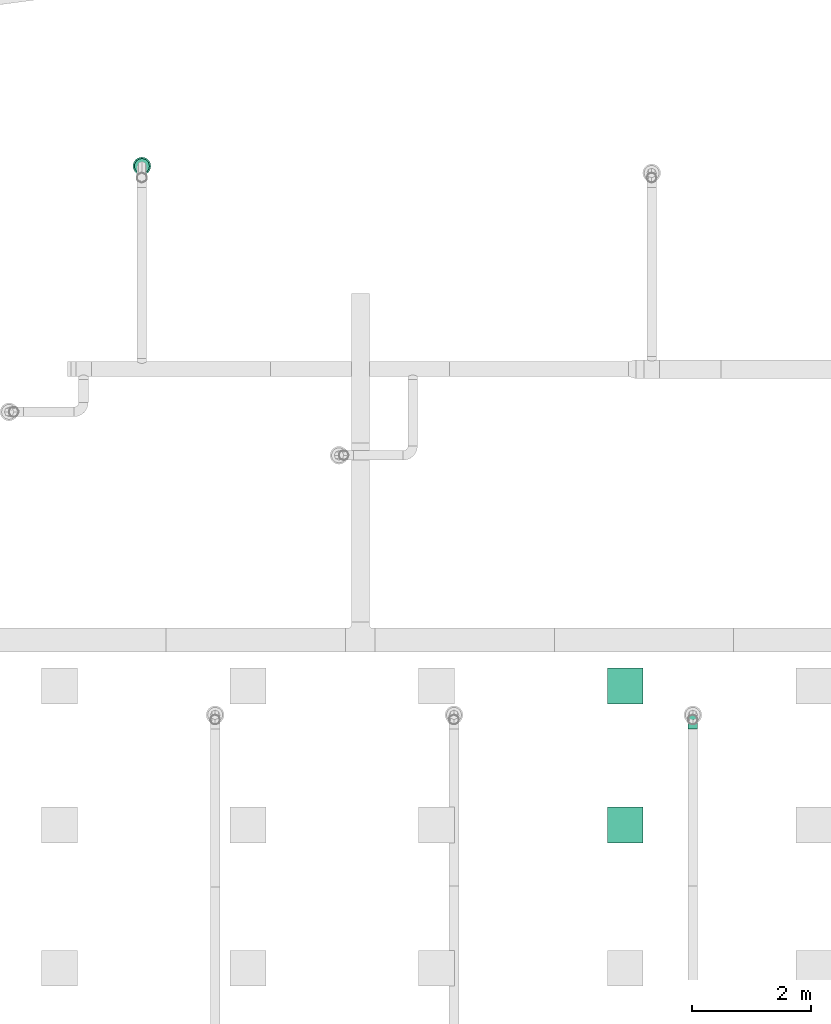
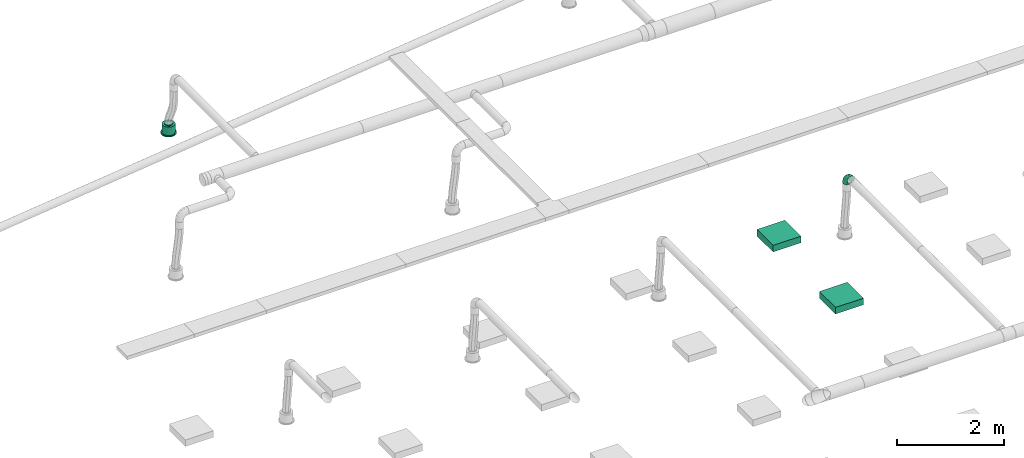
# One storey, part 40 of 374: 2 distribution elements, 1 flow fitting, 1 flow terminal.
"""IFC2X3 building model written with IfcOpenShell, lengths in metres."""

import ifcopenshell
import ifcopenshell.guid

model = None  # the IFC model being written
_history = None  # IfcOwnerHistory: only IFC2X3 demands one
_inside = {}  # id of a spatial element -> (the spatial element, [elements in it])
_under = {}  # id of a project, library or spatial element -> (it, [spatial elements below it])
_declared = {}  # id of a project -> (the project, [libraries it declares])
_typed = {}  # id of a type object -> (the type object, [elements of that type])
_made_of = {}  # id of a material, layer set ... -> (it, [elements and type objects made of it])


def new_model(schema):
    """Start an empty IFC model of exactly this schema.

    Asked for "IFC4X3", IfcOpenShell would pick the latest addendum, in which some entities
    have other attributes; the version numbers below select the first issue.
    IFC2X3 requires an IfcOwnerHistory on every rooted entity: one is made here for all.
    """
    global model, _history
    if schema == "IFC4X3":
        model = ifcopenshell.file(schema_version=(4, 3, 0, 0))
    else:
        model = ifcopenshell.file(schema=schema)
    _inside.clear()
    _under.clear()
    _declared.clear()
    _typed.clear()
    _made_of.clear()
    _history = None
    if model.schema == "IFC2X3":
        org = make("IfcOrganization", Name="unknown")
        user = make(
            "IfcPersonAndOrganization",
            ThePerson=make("IfcPerson", FamilyName="unknown"),
            TheOrganization=org,
        )
        app = make(
            "IfcApplication",
            ApplicationDeveloper=org,
            Version="unknown",
            ApplicationFullName="unknown",
            ApplicationIdentifier="unknown",
        )
        _history = make(
            "IfcOwnerHistory",
            OwningUser=user,
            OwningApplication=app,
            ChangeAction="ADDED",
            CreationDate=0,
        )
    return model


def make(cls, **values):
    """One entity of the class cls with the attributes given. An attribute that is None is left unset."""
    return model.create_entity(
        cls, **{name: value for name, value in values.items() if value is not None}
    )


def rooted(cls, **values):
    """An entity with a GlobalId (a new one), such as an element, a storey or a relation."""
    return make(cls, GlobalId=ifcopenshell.guid.new(), OwnerHistory=_history, **values)


def si_unit(unit_type, name, prefix=None):
    """IfcSIUnit, for example si_unit("LENGTHUNIT", "METRE", prefix="MILLI")."""
    return make("IfcSIUnit", UnitType=unit_type, Prefix=prefix, Name=name)


def assignment(units):
    """IfcUnitAssignment: the units of a project."""
    return None if units is None else make("IfcUnitAssignment", Units=units)


def point(xyz):
    """IfcCartesianPoint."""
    return None if xyz is None else make("IfcCartesianPoint", Coordinates=xyz)


def direction(xyz):
    """IfcDirection."""
    return None if xyz is None else make("IfcDirection", DirectionRatios=xyz)


def frame(location, z_axis=None, x_axis=None):
    """IfcAxis2Placement3D, a coordinate frame: its origin and axes. An axis left out is left unset."""
    return make(
        "IfcAxis2Placement3D",
        Location=point(location),
        Axis=direction(z_axis),
        RefDirection=direction(x_axis),
    )


def frame_2d(location, x_axis=None):
    """IfcAxis2Placement2D, a coordinate frame in the plane: its origin and x axis."""
    return make(
        "IfcAxis2Placement2D", Location=point(location), RefDirection=direction(x_axis)
    )


def origin():
    """The frame at (0, 0, 0) with its axes left unset."""
    return frame((0.0, 0.0, 0.0))


def place(relative_to, where):
    """IfcLocalPlacement: puts the frame where relative to a parent placement (None: the world)."""
    return make(
        "IfcLocalPlacement", PlacementRelTo=relative_to, RelativePlacement=where
    )


def context(
    kind, dimensions, precision=None, world=None, true_north=None, identifier=None
):
    """IfcGeometricRepresentationContext, for example the 3D "Model" context."""
    return make(
        "IfcGeometricRepresentationContext",
        ContextIdentifier=identifier,
        ContextType=kind,
        CoordinateSpaceDimension=dimensions,
        Precision=precision,
        WorldCoordinateSystem=world,
        TrueNorth=true_north,
    )


def subcontext(parent, identifier, kind, view, scale=None):
    """IfcGeometricRepresentationSubContext, for example "Body" below "Model"."""
    return make(
        "IfcGeometricRepresentationSubContext",
        ContextIdentifier=identifier,
        ContextType=kind,
        ParentContext=parent,
        TargetScale=scale,
        TargetView=view,
    )


def project(units=None, contexts=None):
    """IfcProject with its units and contexts."""
    return rooted(
        "IfcProject",
        Name="project",
        RepresentationContexts=contexts,
        UnitsInContext=assignment(units),
    )


def spatial(cls, under=None, at=None, **own):
    """A site, building, storey or space (cls), placed at a placement, below another one or the project."""
    s = rooted(cls, ObjectPlacement=at, **own)
    if under is not None:
        _under.setdefault(under.id(), (under, []))[1].append(s)
    return s


def profile(cls, at=None, kind="AREA", **sizes):
    """A parametric profile (cls). Its sizes go by their IFC names, for example OverallWidth=200.0."""
    return make(cls, ProfileType=kind, Position=at, **sizes)


def rectangle(**sizes):
    """IfcRectangleProfileDef."""
    return profile("IfcRectangleProfileDef", **sizes)


def extrude(swept, where, along, depth):
    """IfcExtrudedAreaSolid: the profile swept, set in the frame where, extruded along a direction by depth."""
    return make(
        "IfcExtrudedAreaSolid",
        SweptArea=swept,
        Position=where,
        ExtrudedDirection=direction(along),
        Depth=depth,
    )


def faces_of(points, faces, orient=None, outer=None):
    """IfcFace entities. A face is a list of loops; a loop is a list of indices into points, from 0.

    orient and outer hold one flag for each loop. By default every Orientation is true, the
    first loop of a face is its IfcFaceOuterBound and the others are IfcFaceBound.
    """
    made = []
    for i, loops in enumerate(faces):
        bounds = []
        for j, loop in enumerate(loops):
            is_outer = j == 0 if outer is None else outer[i][j]
            bounds.append(
                make(
                    "IfcFaceOuterBound" if is_outer else "IfcFaceBound",
                    Bound=make("IfcPolyLoop", Polygon=[points[k] for k in loop]),
                    Orientation=True if orient is None else orient[i][j],
                )
            )
        made.append(make("IfcFace", Bounds=bounds))
    return made


def open_shell(faces, orient=None, outer=None):
    """The faces of one IfcOpenShell. surface_model builds it on its shared points."""
    return ("IfcOpenShell", faces, orient, outer)


def surface_model(cls, points, shells):
    """IfcFaceBasedSurfaceModel or IfcShellBasedSurfaceModel (cls): surfaces that need not close."""
    shared = [point(p) for p in points]
    made = [make(c, CfsFaces=faces_of(shared, fs, o, b)) for c, fs, o, b in shells]
    if cls == "IfcFaceBasedSurfaceModel":
        return make(cls, FbsmFaces=made)
    return make(cls, SbsmBoundary=made)


def shape(context_of_items, identifier, shape_type, items):
    """IfcShapeRepresentation: the items that make up one representation, for example the "Body"."""
    return make(
        "IfcShapeRepresentation",
        ContextOfItems=context_of_items,
        RepresentationIdentifier=identifier,
        RepresentationType=shape_type,
        Items=items,
    )


def source(mapping_origin, context_of_items, identifier, shape_type, items):
    """IfcRepresentationMap: a shape defined once, which mapped items show again and again."""
    return make(
        "IfcRepresentationMap",
        MappingOrigin=mapping_origin,
        MappedRepresentation=shape(context_of_items, identifier, shape_type, items),
    )


def transform(
    local_origin,
    x_axis=None,
    y_axis=None,
    z_axis=None,
    scale=None,
    scale2=None,
    scale3=None,
    uniform=True,
):
    """IfcCartesianTransformationOperator3D, or its non-uniform kind. x_axis, y_axis, z_axis: its Axis1, 2, 3."""
    if uniform:
        return make(
            "IfcCartesianTransformationOperator3D",
            Axis1=direction(x_axis),
            Axis2=direction(y_axis),
            LocalOrigin=point(local_origin),
            Scale=scale,
            Axis3=direction(z_axis),
        )
    return make(
        "IfcCartesianTransformationOperator3DnonUniform",
        Axis1=direction(x_axis),
        Axis2=direction(y_axis),
        LocalOrigin=point(local_origin),
        Scale=scale,
        Axis3=direction(z_axis),
        Scale2=scale2,
        Scale3=scale3,
    )


def mapped(mapping_source, mapping_target):
    """IfcMappedItem: shows the shape of a source again, moved by a transform."""
    return make(
        "IfcMappedItem", MappingSource=mapping_source, MappingTarget=mapping_target
    )


def made_of(thing, what):
    """Note that an element or type object is made of a material, layer set ...; save() writes the relation."""
    if what is not None:
        _made_of.setdefault(what.id(), (what, []))[1].append(thing)
    return thing


def element(
    cls,
    number,
    at=None,
    inside=None,
    cuts=None,
    type_object=None,
    material=None,
    context=None,
    identifier="Body",
    shape_type=None,
    held_by="IfcProductDefinitionShape",
    body=None,
    shapes=None,
    **own,
):
    """One element of the class cls, such as IfcWall. Its Tag is "e" and its number.

    at: its placement. inside: the storey or other place that contains it. cuts: it is an
    opening in that element (IfcRelVoidsElement). A single representation is given by context,
    identifier, shape_type and body (its items); several are given by shapes. held_by: the class
    of the entity that holds the representations. save() writes the other relations.
    """
    e = rooted(cls, Tag="e%d" % number, ObjectPlacement=at, **own)
    if body is not None:
        shapes = [shape(context, identifier, shape_type, body)]
    if shapes is not None:
        e.Representation = make(held_by, Representations=shapes)
    if inside is not None:
        _inside.setdefault(inside.id(), (inside, []))[1].append(e)
    if cuts is not None:
        rooted(
            "IfcRelVoidsElement", RelatingBuildingElement=cuts, RelatedOpeningElement=e
        )
    if type_object is not None:
        _typed.setdefault(type_object.id(), (type_object, []))[1].append(e)
    return made_of(e, material)


def aggregate(whole, parts):
    """IfcRelAggregates: a whole, such as a stair, and the parts it consists of."""
    return rooted("IfcRelAggregates", RelatingObject=whole, RelatedObjects=parts)


def save(model, path):
    """Write the relations noted so far, then the file.

    IfcRelAggregates (storeys below a building ...), IfcRelContainedInSpatialStructure (elements
    in a storey), IfcRelDefinesByType, IfcRelAssociatesMaterial and IfcRelDeclares: one each for
    every whole, place, type object, material and project.
    """
    for whole, parts in _under.values():
        aggregate(whole, parts)
    for where, things in _inside.values():
        rooted(
            "IfcRelContainedInSpatialStructure",
            RelatedElements=things,
            RelatingStructure=where,
        )
    for kind, things in _typed.values():
        rooted("IfcRelDefinesByType", RelatedObjects=things, RelatingType=kind)
    for what, things in _made_of.values():
        rooted("IfcRelAssociatesMaterial", RelatedObjects=things, RelatingMaterial=what)
    for by, libraries in _declared.values():
        rooted("IfcRelDeclares", RelatingContext=by, RelatedDefinitions=libraries)
    model.write(path)


model = new_model("IFC2X3")

# Units and contexts
model_context = context("Model", 3, precision=1e-05, world=origin(), true_north=direction((-0.4480736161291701, 0.8939966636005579)))
body_context = subcontext(model_context, "Body", "Model", "MODEL_VIEW")
ifc_project = project(units=[si_unit("LENGTHUNIT", "METRE"), si_unit("AREAUNIT", "SQUARE_METRE"), si_unit("VOLUMEUNIT", "CUBIC_METRE"), si_unit("PLANEANGLEUNIT", "RADIAN"), si_unit("THERMODYNAMICTEMPERATUREUNIT", "KELVIN"), si_unit("MASSUNIT", "GRAM", prefix="KILO"), si_unit("TIMEUNIT", "SECOND")], contexts=[model_context])

# Site, building, storey
site_placement = place(None, origin())
site = spatial("IfcSite", under=ifc_project, at=site_placement, Name="Site 1", CompositionType="ELEMENT")
building_placement = place(site_placement, origin())
building = spatial("IfcBuilding", under=site, at=building_placement, Name="Undefined", CompositionType="ELEMENT")
storey_placement = place(building_placement, origin())
storey = spatial("IfcBuildingStorey", under=building, at=storey_placement, Name="Rez de chauss\x8ee", CompositionType="ELEMENT", Elevation=0.0)

# Flow terminal
shared_shape_1 = source(origin(), body_context, "Body", "SurfaceModel", [
    surface_model("IfcFaceBasedSurfaceModel", [(0.0, 0.0, 0.0), (0.03915785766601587, 0.0, 0.0), (0.03915785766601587, 0.020000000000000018, 0.0), (3.552713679e-15, 0.020000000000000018, 0.0), (0.07698144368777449, 0.0, -0.010134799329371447), (0.07698144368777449, 0.020000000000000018, -0.010134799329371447), (0.11089314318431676, 0.0, -0.02971372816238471), (0.11089314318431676, 0.020000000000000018, -0.02971372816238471), (0.13858192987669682, 0.0, -0.05740251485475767), (0.13858192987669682, 0.020000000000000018, -0.05740251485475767), (0.15816085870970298, 0.0, -0.09131421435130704), (0.15816085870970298, 0.020000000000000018, -0.09131421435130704), (0.16829565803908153, 0.0, -0.12913780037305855), (0.16829565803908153, 0.020000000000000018, -0.12913780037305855), (0.16829565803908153, 0.0, -0.16829565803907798), (0.16829565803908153, 0.020000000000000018, -0.16829565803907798), (0.15816085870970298, 0.0, -0.20611924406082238), (0.15816085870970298, 0.020000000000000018, -0.20611924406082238), (0.13858192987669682, 0.0, -0.24003094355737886), (0.13858192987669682, 0.020000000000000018, -0.24003094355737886), (0.11089314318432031, 0.0, -0.2677197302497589), (0.11089314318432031, 0.020000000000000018, -0.2677197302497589), (0.07698144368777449, 0.0, -0.2872986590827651), (0.07698144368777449, 0.020000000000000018, -0.2872986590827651), (0.039157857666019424, 0.0, -0.29743345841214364), (0.039157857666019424, 0.020000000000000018, -0.29743345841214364), (3.552713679e-15, 0.0, -0.29743345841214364), (3.552713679e-15, 0.020000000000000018, -0.29743345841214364), (-0.03782358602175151, 0.0, -0.2872986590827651), (-0.03782358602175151, 0.020000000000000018, -0.2872986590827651), (-0.07173528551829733, 0.0, -0.2677197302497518), (-0.07173528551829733, 0.020000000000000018, -0.2677197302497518), (-0.0994240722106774, 0.0, -0.24003094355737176), (-0.0994240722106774, 0.020000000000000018, -0.24003094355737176), (-0.11900300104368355, 0.0, -0.2061192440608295), (-0.11900300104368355, 0.020000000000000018, -0.2061192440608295), (-0.1291378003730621, 0.0, -0.16829565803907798), (-0.1291378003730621, 0.020000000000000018, -0.16829565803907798), (-0.1291378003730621, 0.0, -0.12913780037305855), (-0.1291378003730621, 0.020000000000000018, -0.12913780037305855), (-0.11900300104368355, 0.0, -0.09131421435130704), (-0.11900300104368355, 0.020000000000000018, -0.09131421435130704), (-0.0994240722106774, 0.0, -0.05740251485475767), (-0.0994240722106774, 0.020000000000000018, -0.05740251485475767), (-0.07173528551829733, 0.0, -0.029713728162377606), (-0.07173528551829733, 0.020000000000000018, -0.029713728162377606), (-0.03782358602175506, 0.0, -0.010134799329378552), (-0.03782358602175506, 0.020000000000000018, -0.010134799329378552), (0.019578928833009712, 0.0, -0.14871672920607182), (0.019578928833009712, 0.020000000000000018, -0.14871672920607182), (0.003263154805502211, 0.020000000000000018, -0.02478612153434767), (0.035894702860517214, 0.020000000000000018, -0.02478612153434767), (0.035894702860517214, 0.20999999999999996, -0.02478612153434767), (0.003263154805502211, 0.20999999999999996, -0.02478612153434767), (0.06741435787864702, 0.020000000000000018, -0.033231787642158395), (0.06741435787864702, 0.20999999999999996, -0.033231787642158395), (0.0956741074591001, 0.020000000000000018, -0.04954756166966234), (0.0956741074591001, 0.20999999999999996, -0.04954756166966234), (0.11874809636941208, 0.020000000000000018, -0.07262155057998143), (0.11874809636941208, 0.20999999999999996, -0.07262155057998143), (0.13506387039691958, 0.020000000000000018, -0.10088130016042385), (0.13506387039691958, 0.20999999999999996, -0.10088130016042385), (0.1435095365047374, 0.020000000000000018, -0.13240095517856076), (0.1435095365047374, 0.20999999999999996, -0.13240095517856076), (0.1435095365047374, 0.020000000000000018, -0.16503250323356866), (0.1435095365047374, 0.20999999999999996, -0.16503250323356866), (0.13506387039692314, 0.020000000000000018, -0.19655215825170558), (0.13506387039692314, 0.20999999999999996, -0.19655215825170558), (0.11874809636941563, 0.020000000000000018, -0.2248119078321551), (0.11874809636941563, 0.20999999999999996, -0.2248119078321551), (0.09567410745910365, 0.020000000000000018, -0.24788589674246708), (0.09567410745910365, 0.20999999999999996, -0.24788589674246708), (0.06741435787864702, 0.020000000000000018, -0.26420167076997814), (0.06741435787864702, 0.20999999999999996, -0.26420167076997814), (0.035894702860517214, 0.020000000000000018, -0.27264733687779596), (0.035894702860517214, 0.20999999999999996, -0.27264733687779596), (0.0032631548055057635, 0.020000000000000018, -0.27264733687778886), (0.0032631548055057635, 0.20999999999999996, -0.27264733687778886), (-0.028256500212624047, 0.020000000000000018, -0.26420167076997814), (-0.028256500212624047, 0.20999999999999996, -0.26420167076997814), (-0.05651624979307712, 0.020000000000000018, -0.2478858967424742), (-0.05651624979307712, 0.20999999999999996, -0.2478858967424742), (-0.07959023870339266, 0.020000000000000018, -0.2248119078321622), (-0.07959023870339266, 0.20999999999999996, -0.2248119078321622), (-0.09590601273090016, 0.020000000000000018, -0.19655215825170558), (-0.09590601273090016, 0.20999999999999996, -0.19655215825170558), (-0.10435167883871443, 0.020000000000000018, -0.16503250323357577), (-0.10435167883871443, 0.20999999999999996, -0.16503250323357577), (-0.10435167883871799, 0.020000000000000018, -0.13240095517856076), (-0.10435167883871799, 0.20999999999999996, -0.13240095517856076), (-0.09590601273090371, 0.020000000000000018, -0.10088130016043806), (-0.09590601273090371, 0.20999999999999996, -0.10088130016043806), (-0.07959023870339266, 0.020000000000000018, -0.07262155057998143), (-0.07959023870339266, 0.20999999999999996, -0.07262155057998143), (-0.056516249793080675, 0.020000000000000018, -0.04954756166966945), (-0.056516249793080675, 0.20999999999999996, -0.04954756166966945), (-0.028256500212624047, 0.020000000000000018, -0.033231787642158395), (-0.028256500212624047, 0.20999999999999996, -0.033231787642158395), (0.019578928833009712, 0.20999999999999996, -0.14871672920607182), (0.009136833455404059, 0.20999999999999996, -0.06940114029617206), (0.030021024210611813, 0.20999999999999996, -0.06940114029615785), (0.030021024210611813, 0.22999999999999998, -0.06940114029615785), (0.009136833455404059, 0.22999999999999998, -0.06940114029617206), (0.05019360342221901, 0.20999999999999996, -0.07480636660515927), (0.05019360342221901, 0.22999999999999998, -0.07480636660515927), (0.06827984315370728, 0.20999999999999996, -0.08524846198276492), (0.06827984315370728, 0.22999999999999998, -0.08524846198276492), (0.0830471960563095, 0.20999999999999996, -0.10001581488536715), (0.0830471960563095, 0.22999999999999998, -0.10001581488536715), (0.0934892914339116, 0.20999999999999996, -0.11810205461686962), (0.0934892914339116, 0.22999999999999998, -0.11810205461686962), (0.09889451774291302, 0.20999999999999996, -0.13827463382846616), (0.09889451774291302, 0.22999999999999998, -0.13827463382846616), (0.09889451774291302, 0.20999999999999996, -0.15915882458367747), (0.09889451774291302, 0.22999999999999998, -0.15915882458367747), (0.09348929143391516, 0.20999999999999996, -0.179331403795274), (0.09348929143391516, 0.22999999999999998, -0.179331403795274), (0.0830471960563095, 0.20999999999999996, -0.19741764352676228), (0.0830471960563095, 0.22999999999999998, -0.19741764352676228), (0.06827984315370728, 0.20999999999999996, -0.2121849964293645), (0.06827984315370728, 0.22999999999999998, -0.2121849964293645), (0.05019360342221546, 0.20999999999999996, -0.22262709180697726), (0.05019360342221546, 0.22999999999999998, -0.22262709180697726), (0.030021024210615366, 0.20999999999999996, -0.22803231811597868), (0.030021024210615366, 0.22999999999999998, -0.22803231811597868), (0.009136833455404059, 0.20999999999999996, -0.22803231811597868), (0.009136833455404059, 0.22999999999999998, -0.22803231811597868), (-0.011035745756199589, 0.20999999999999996, -0.22262709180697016), (-0.011035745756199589, 0.22999999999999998, -0.22262709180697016), (-0.0291219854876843, 0.20999999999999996, -0.2121849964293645), (-0.0291219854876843, 0.22999999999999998, -0.2121849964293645), (-0.043889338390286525, 0.20999999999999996, -0.19741764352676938), (-0.043889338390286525, 0.22999999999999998, -0.19741764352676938), (-0.05433143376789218, 0.20999999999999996, -0.17933140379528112), (-0.05433143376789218, 0.22999999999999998, -0.17933140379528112), (-0.05973666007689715, 0.20999999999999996, -0.15915882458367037), (-0.05973666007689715, 0.22999999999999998, -0.15915882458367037), (-0.0597366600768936, 0.20999999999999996, -0.13827463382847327), (-0.0597366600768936, 0.22999999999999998, -0.13827463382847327), (-0.05433143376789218, 0.20999999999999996, -0.11810205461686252), (-0.05433143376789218, 0.22999999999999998, -0.11810205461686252), (-0.043889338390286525, 0.20999999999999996, -0.10001581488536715), (-0.043889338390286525, 0.22999999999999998, -0.10001581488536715), (-0.02912198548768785, 0.20999999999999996, -0.08524846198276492), (-0.02912198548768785, 0.22999999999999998, -0.08524846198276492), (-0.011035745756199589, 0.20999999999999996, -0.07480636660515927), (-0.011035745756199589, 0.22999999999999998, -0.07480636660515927)], [open_shell([[[0, 1, 2, 3]], [[1, 4, 5, 2]], [[4, 6, 7, 5]], [[6, 8, 9, 7]], [[8, 10, 11, 9]], [[10, 12, 13, 11]], [[12, 14, 15, 13]], [[14, 16, 17, 15]], [[16, 18, 19, 17]], [[18, 20, 21, 19]], [[20, 22, 23, 21]], [[22, 24, 25, 23]], [[24, 26, 27, 25]], [[26, 28, 29, 27]], [[28, 30, 31, 29]], [[30, 32, 33, 31]], [[32, 34, 35, 33]], [[34, 36, 37, 35]], [[36, 38, 39, 37]], [[38, 40, 41, 39]], [[40, 42, 43, 41]], [[42, 44, 45, 43]], [[44, 46, 47, 45]], [[46, 0, 3, 47]], [[48, 1, 0]], [[48, 4, 1]], [[48, 6, 4]], [[48, 8, 6]], [[48, 10, 8]], [[48, 12, 10]], [[48, 14, 12]], [[48, 16, 14]], [[48, 18, 16]], [[48, 20, 18]], [[48, 22, 20]], [[48, 24, 22]], [[48, 26, 24]], [[48, 28, 26]], [[48, 30, 28]], [[48, 32, 30]], [[48, 34, 32]], [[48, 36, 34]], [[48, 38, 36]], [[48, 40, 38]], [[48, 42, 40]], [[48, 44, 42]], [[48, 46, 44]], [[48, 0, 46]], [[49, 47, 3]], [[49, 45, 47]], [[49, 43, 45]], [[49, 41, 43]], [[49, 39, 41]], [[49, 37, 39]], [[49, 35, 37]], [[49, 33, 35]], [[49, 31, 33]], [[49, 29, 31]], [[49, 27, 29]], [[49, 25, 27]], [[49, 23, 25]], [[49, 21, 23]], [[49, 19, 21]], [[49, 17, 19]], [[49, 15, 17]], [[49, 13, 15]], [[49, 11, 13]], [[49, 9, 11]], [[49, 7, 9]], [[49, 5, 7]], [[49, 2, 5]], [[49, 3, 2]], [[50, 51, 52, 53]], [[51, 54, 55, 52]], [[54, 56, 57, 55]], [[56, 58, 59, 57]], [[58, 60, 61, 59]], [[60, 62, 63, 61]], [[62, 64, 65, 63]], [[64, 66, 67, 65]], [[66, 68, 69, 67]], [[68, 70, 71, 69]], [[70, 72, 73, 71]], [[72, 74, 75, 73]], [[74, 76, 77, 75]], [[76, 78, 79, 77]], [[78, 80, 81, 79]], [[80, 82, 83, 81]], [[82, 84, 85, 83]], [[84, 86, 87, 85]], [[86, 88, 89, 87]], [[88, 90, 91, 89]], [[90, 92, 93, 91]], [[92, 94, 95, 93]], [[94, 96, 97, 95]], [[96, 50, 53, 97]], [[49, 51, 50]], [[49, 54, 51]], [[49, 56, 54]], [[49, 58, 56]], [[49, 60, 58]], [[49, 62, 60]], [[49, 64, 62]], [[49, 66, 64]], [[49, 68, 66]], [[49, 70, 68]], [[49, 72, 70]], [[49, 74, 72]], [[49, 76, 74]], [[49, 78, 76]], [[49, 80, 78]], [[49, 82, 80]], [[49, 84, 82]], [[49, 86, 84]], [[49, 88, 86]], [[49, 90, 88]], [[49, 92, 90]], [[49, 94, 92]], [[49, 96, 94]], [[49, 50, 96]], [[98, 97, 53]], [[98, 95, 97]], [[98, 93, 95]], [[98, 91, 93]], [[98, 89, 91]], [[98, 87, 89]], [[98, 85, 87]], [[98, 83, 85]], [[98, 81, 83]], [[98, 79, 81]], [[98, 77, 79]], [[98, 75, 77]], [[98, 73, 75]], [[98, 71, 73]], [[98, 69, 71]], [[98, 67, 69]], [[98, 65, 67]], [[98, 63, 65]], [[98, 61, 63]], [[98, 59, 61]], [[98, 57, 59]], [[98, 55, 57]], [[98, 52, 55]], [[98, 53, 52]], [[99, 100, 101, 102]], [[100, 103, 104, 101]], [[103, 105, 106, 104]], [[105, 107, 108, 106]], [[107, 109, 110, 108]], [[109, 111, 112, 110]], [[111, 113, 114, 112]], [[113, 115, 116, 114]], [[115, 117, 118, 116]], [[117, 119, 120, 118]], [[119, 121, 122, 120]], [[121, 123, 124, 122]], [[123, 125, 126, 124]], [[125, 127, 128, 126]], [[127, 129, 130, 128]], [[129, 131, 132, 130]], [[131, 133, 134, 132]], [[133, 135, 136, 134]], [[135, 137, 138, 136]], [[137, 139, 140, 138]], [[139, 141, 142, 140]], [[141, 143, 144, 142]], [[143, 145, 146, 144]], [[145, 99, 102, 146]]])]),
])
flow_terminal_placement = place(storey_placement, origin())
element("IfcFlowTerminal", 1, at=flow_terminal_placement, inside=storey, Name="Air diffuseur - bouche", ObjectType="Air diffuseur - bouche", context=body_context, shape_type="MappedRepresentation", body=[
    mapped(shared_shape_1, transform((5.753544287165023, 25.99552721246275, 2.38), x_axis=(0.9914448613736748, 0.13052619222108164, 0.0), y_axis=(0.0, 0.0, 1.0), z_axis=(0.13052619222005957, -0.9914448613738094, 0.0))),
])

# Flow fitting
shared_shape_2 = source(origin(), body_context, "Body", "SurfaceModel", [
    surface_model("IfcFaceBasedSurfaceModel", [(0.06265257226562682, -8.8817842e-16, 0.0), (0.062296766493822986, 0.02088115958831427, -7.105427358e-15), (0.0003558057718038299, 0.020881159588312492, 7.105427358e-15), (0.0, 0.0, 0.0), (-0.059474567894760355, 0.022956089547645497, -0.015896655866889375), (-0.06051773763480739, 0.002098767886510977, -0.01607928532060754), (-0.11311701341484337, 0.02696454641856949, -0.04660663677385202), (-0.11477645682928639, 0.006153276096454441, -0.04714207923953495), (-0.15691588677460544, 0.0326333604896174, -0.09003710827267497), (-0.15907851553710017, 0.01188721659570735, -0.09107150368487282), (-0.18788636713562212, 0.03957621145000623, -0.14322835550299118), (-0.1904048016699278, 0.01890983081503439, -0.14487384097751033), (-0.2039178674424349, 0.04731995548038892, -0.20255548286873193), (-0.20662048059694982, 0.026742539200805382, -0.20488255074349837), (0.061253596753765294, 0.04103889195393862, -0.0053597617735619), (0.0013989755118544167, 0.04103889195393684, -0.005359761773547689), (-0.05641614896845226, 0.04304393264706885, -0.02072097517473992), (-0.10825177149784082, 0.04691737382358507, -0.050396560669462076), (-0.15057538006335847, 0.05239524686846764, -0.09236417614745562), (-0.18050269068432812, 0.05910424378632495, -0.14376379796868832), (-0.19599420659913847, 0.06658715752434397, -0.20109262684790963), (0.05959415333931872, 0.05909948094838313, -0.01571402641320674), (0.003058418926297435, 0.05909948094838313, -0.01571402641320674), (-0.05155090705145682, 0.06099334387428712, -0.030223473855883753), (-0.10051228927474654, 0.06465200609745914, -0.058253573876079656), (-0.1404890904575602, 0.0698261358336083, -0.09789412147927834), (-0.16875695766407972, 0.0761631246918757, -0.14644367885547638), (-0.18338948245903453, 0.08323111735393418, -0.2005936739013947), (0.057431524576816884, 0.07383212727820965, -0.030357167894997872), (0.005221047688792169, 0.07383212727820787, -0.03035716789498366), (-0.0452104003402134, 0.07558110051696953, -0.04375657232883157), (-0.09042599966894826, 0.07895985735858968, -0.06964223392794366), (-0.12734438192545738, 0.08373814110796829, -0.10625008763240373), (-0.15344962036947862, 0.08959031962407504, -0.15108536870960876), (-0.16696268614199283, 0.0961175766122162, -0.20109262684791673), (0.054913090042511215, 0.0842328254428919, -0.048291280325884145), (0.007739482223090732, 0.08423282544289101, -0.04829128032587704), (-0.037826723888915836, 0.08581307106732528, -0.06039801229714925), (-0.07868026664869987, 0.08886587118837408, -0.08378642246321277), (-0.11203704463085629, 0.09318318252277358, -0.11686262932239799), (-0.13562384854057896, 0.09847078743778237, -0.1573725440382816), (-0.14783327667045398, 0.10436834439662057, -0.20255548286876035), (0.05221047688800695, 0.0895927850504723, -0.06829418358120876), (0.010442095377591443, 0.08959278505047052, -0.06829418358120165), (-0.029903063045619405, 0.09099196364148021, -0.07901370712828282), (-0.06607554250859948, 0.09369496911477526, -0.0997222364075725), (-0.0956102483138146, 0.0975175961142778, -0.12900851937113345), (-0.11649443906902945, 0.10219933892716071, -0.16487674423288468), (-0.12730489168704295, 0.1074211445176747, -0.2048825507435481), (0.04950786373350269, 0.08954673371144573, -0.08900271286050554), (0.013144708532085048, 0.08954673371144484, -0.08900271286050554), (-0.02197940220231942, 0.09076484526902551, -0.09833502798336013), (-0.05347081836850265, 0.09311805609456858, -0.11636367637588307), (-0.0791834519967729, 0.09644599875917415, -0.14186003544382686), (-0.09736502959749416, 0.10052187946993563, -0.17308657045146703), (-0.10677650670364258, 0.1050679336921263, -0.20791524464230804), (0.04698942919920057, 0.08409780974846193, -0.10900561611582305), (0.015663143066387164, 0.08409780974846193, -0.10900561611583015), (-0.014595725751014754, 0.08514719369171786, -0.11704525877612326), (-0.0417250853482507, 0.0871744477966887, -0.13257665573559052), (-0.06387611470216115, 0.09004141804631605, -0.15454136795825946), (-0.07953925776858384, 0.09355272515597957, -0.1814425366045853), (-0.08764709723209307, 0.09746907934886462, -0.21144689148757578), (0.04482680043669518, 0.0736173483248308, -0.12693972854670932), (0.017825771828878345, 0.0736173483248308, -0.12693972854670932), (-0.008255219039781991, 0.07452184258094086, -0.13386932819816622), (-0.03163879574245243, 0.0762691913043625, -0.14725628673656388), (-0.050731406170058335, 0.07874031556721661, -0.1661883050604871), (-0.06423192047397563, 0.08176681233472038, -0.18937519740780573), (-0.07122030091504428, 0.08514243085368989, -0.21523681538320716), (0.04316735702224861, 0.058819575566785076, -0.14158287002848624), (0.019485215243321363, 0.058819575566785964, -0.14158287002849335), (-0.0033899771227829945, 0.05961289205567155, -0.14766070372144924), (-0.02389931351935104, 0.06114546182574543, -0.15940217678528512), (-0.04064511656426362, 0.06331284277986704, -0.17600712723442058), (-0.052486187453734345, 0.06596733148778, -0.19634395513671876), (-0.05861557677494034, 0.06892802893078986, -0.2190267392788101), (0.04212418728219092, 0.040712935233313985, -0.15193713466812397), (0.020528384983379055, 0.040712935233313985, -0.15193713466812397), (-0.0003315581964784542, 0.041436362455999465, -0.15747952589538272), (-0.019034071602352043, 0.04283391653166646, -0.16818660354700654), (-0.03430460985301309, 0.04481035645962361, -0.1833286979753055), (-0.04510251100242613, 0.047230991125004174, -0.20187390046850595), (-0.05069191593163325, 0.04993085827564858, -0.22255838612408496), (0.04176838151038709, 0.02053136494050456, -0.15729689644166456), (0.020884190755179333, 0.02053136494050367, -0.15729689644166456), (0.0007116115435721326, 0.021230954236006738, -0.16265665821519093), (-0.017374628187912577, 0.022582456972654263, -0.17301092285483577), (-0.03214198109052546, 0.024493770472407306, -0.1876540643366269), (-0.042584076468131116, 0.026834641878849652, -0.20558817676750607), (-0.04798930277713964, 0.02944554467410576, -0.22559108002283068), (0.04212418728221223, -0.000349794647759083, -0.15729689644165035), (0.020528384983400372, -0.000349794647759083, -0.15729689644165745), (-0.0003315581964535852, 0.00037363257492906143, -0.1628392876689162), (-0.019034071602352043, 0.0017711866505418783, -0.17354636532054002), (-0.03430460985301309, 0.0037476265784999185, -0.18868845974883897), (-0.04510251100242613, 0.00616826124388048, -0.20723366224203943), (-0.05069191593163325, 0.008868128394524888, -0.22791814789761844), (0.04316735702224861, -0.020507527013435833, -0.15193713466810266), (0.019485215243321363, -0.020507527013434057, -0.15193713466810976), (-0.0033899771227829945, -0.019714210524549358, -0.15801496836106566), (-0.02389931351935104, -0.01818164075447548, -0.16975644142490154), (-0.04064511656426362, -0.01601425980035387, -0.186361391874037), (-0.052486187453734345, -0.013359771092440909, -0.20669821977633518), (-0.05861557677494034, -0.010399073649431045, -0.22938100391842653), (0.04482680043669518, -0.03856811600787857, -0.1415828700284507), (0.017825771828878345, -0.03856811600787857, -0.1415828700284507), (-0.008255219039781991, -0.03766362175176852, -0.1485124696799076), (-0.03163879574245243, -0.03591627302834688, -0.16189942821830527), (-0.050731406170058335, -0.03344514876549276, -0.1808314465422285), (-0.06423192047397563, -0.030418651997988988, -0.20401833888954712), (-0.07122030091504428, -0.027043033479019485, -0.22987995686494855), (0.04698942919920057, -0.05330076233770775, -0.12693972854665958), (0.015663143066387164, -0.05330076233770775, -0.12693972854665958), (-0.014595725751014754, -0.05225137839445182, -0.1349793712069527), (-0.0417250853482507, -0.05022412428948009, -0.15051076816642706), (-0.06387611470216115, -0.047357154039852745, -0.172475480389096), (-0.07953925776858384, -0.043845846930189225, -0.19937664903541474), (-0.08764709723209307, -0.03992949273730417, -0.2293810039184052), (0.04950786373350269, -0.06370146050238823, -0.10900561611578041), (0.013144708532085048, -0.06370146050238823, -0.10900561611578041), (-0.02197940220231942, -0.06248334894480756, -0.11833793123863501), (-0.05347081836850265, -0.06013013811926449, -0.13636657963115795), (-0.0791834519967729, -0.05680219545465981, -0.16186293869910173), (-0.09736502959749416, -0.05272631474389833, -0.1930894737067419), (-0.10677650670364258, -0.04818026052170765, -0.2279181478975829), (0.05221047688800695, -0.06906142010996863, -0.08900271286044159), (0.010442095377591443, -0.06906142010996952, -0.08900271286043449), (-0.029903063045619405, -0.06766224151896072, -0.09972223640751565), (-0.06607554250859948, -0.06495923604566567, -0.12043076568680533), (-0.0956102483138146, -0.06113660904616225, -0.14971704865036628), (-0.11649443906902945, -0.05645486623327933, -0.1855852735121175), (-0.12730489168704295, -0.05123306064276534, -0.22559108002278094), (0.054913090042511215, -0.06901536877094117, -0.06829418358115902), (0.007739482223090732, -0.06901536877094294, -0.06829418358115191), (-0.037826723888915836, -0.06743512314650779, -0.08040091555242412), (-0.07868026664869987, -0.06438232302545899, -0.10378932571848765), (-0.11203704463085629, -0.06006501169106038, -0.13686553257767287), (-0.13562384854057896, -0.0547774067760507, -0.17737544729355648), (-0.14783327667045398, -0.04887984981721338, -0.22255838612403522), (0.057431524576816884, -0.06356644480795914, -0.0482912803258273), (0.005221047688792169, -0.06356644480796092, -0.04829128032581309), (-0.0452104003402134, -0.061817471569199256, -0.0616906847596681), (-0.09042599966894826, -0.05843871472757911, -0.0875763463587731), (-0.12734438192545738, -0.05366043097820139, -0.12418420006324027), (-0.15344962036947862, -0.04780825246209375, -0.1690194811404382), (-0.16696268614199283, -0.041280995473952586, -0.21902673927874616), (0.05959415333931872, -0.05308598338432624, -0.030357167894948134), (0.003058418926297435, -0.05308598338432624, -0.030357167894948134), (-0.05155090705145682, -0.05119212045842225, -0.04486661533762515), (-0.10051228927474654, -0.04753345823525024, -0.07289671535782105), (-0.1404890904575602, -0.04235932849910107, -0.11253726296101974), (-0.16875695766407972, -0.03602233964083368, -0.16108682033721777), (-0.18338948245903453, -0.02895434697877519, -0.2152368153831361), (0.061253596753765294, -0.03828821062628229, -0.015714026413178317), (0.0013989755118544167, -0.03828821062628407, -0.015714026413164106), (-0.05641614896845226, -0.03628316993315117, -0.031075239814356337), (-0.10825177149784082, -0.03240972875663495, -0.06075082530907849), (-0.15057538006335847, -0.026931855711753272, -0.10271844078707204), (-0.18050269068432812, -0.02022285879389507, -0.15411806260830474), (-0.19599420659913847, -0.012739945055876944, -0.21144689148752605), (0.062296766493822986, -0.020181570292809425, -0.005359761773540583), (0.0003558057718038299, -0.020181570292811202, -0.0053597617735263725), (-0.059474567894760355, -0.018106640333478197, -0.021256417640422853), (-0.11311701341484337, -0.014098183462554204, -0.051966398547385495), (-0.15691588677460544, -0.00842936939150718, -0.09539687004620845), (-0.18788636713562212, -0.0014865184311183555, -0.14858811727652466), (-0.2039178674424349, 0.006257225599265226, -0.2079152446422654)], [open_shell([[[0, 1, 2, 3]], [[3, 2, 4, 5]], [[5, 4, 6, 7]], [[7, 6, 8, 9]], [[9, 8, 10, 11]], [[11, 10, 12, 13]], [[1, 14, 15, 2]], [[2, 15, 16, 4]], [[4, 16, 17, 6]], [[6, 17, 18, 8]], [[8, 18, 19, 10]], [[10, 19, 20, 12]], [[14, 21, 22, 15]], [[15, 22, 23, 16]], [[16, 23, 24, 17]], [[17, 24, 25, 18]], [[18, 25, 26, 19]], [[19, 26, 27, 20]], [[21, 28, 29, 22]], [[22, 29, 30, 23]], [[23, 30, 31, 24]], [[24, 31, 32, 25]], [[25, 32, 33, 26]], [[26, 33, 34, 27]], [[28, 35, 36, 29]], [[29, 36, 37, 30]], [[30, 37, 38, 31]], [[31, 38, 39, 32]], [[32, 39, 40, 33]], [[33, 40, 41, 34]], [[35, 42, 43, 36]], [[36, 43, 44, 37]], [[37, 44, 45, 38]], [[38, 45, 46, 39]], [[39, 46, 47, 40]], [[40, 47, 48, 41]], [[42, 49, 50, 43]], [[43, 50, 51, 44]], [[44, 51, 52, 45]], [[45, 52, 53, 46]], [[46, 53, 54, 47]], [[47, 54, 55, 48]], [[49, 56, 57, 50]], [[50, 57, 58, 51]], [[51, 58, 59, 52]], [[52, 59, 60, 53]], [[53, 60, 61, 54]], [[54, 61, 62, 55]], [[56, 63, 64, 57]], [[57, 64, 65, 58]], [[58, 65, 66, 59]], [[59, 66, 67, 60]], [[60, 67, 68, 61]], [[61, 68, 69, 62]], [[63, 70, 71, 64]], [[64, 71, 72, 65]], [[65, 72, 73, 66]], [[66, 73, 74, 67]], [[67, 74, 75, 68]], [[68, 75, 76, 69]], [[70, 77, 78, 71]], [[71, 78, 79, 72]], [[72, 79, 80, 73]], [[73, 80, 81, 74]], [[74, 81, 82, 75]], [[75, 82, 83, 76]], [[77, 84, 85, 78]], [[78, 85, 86, 79]], [[79, 86, 87, 80]], [[80, 87, 88, 81]], [[81, 88, 89, 82]], [[82, 89, 90, 83]], [[84, 91, 92, 85]], [[85, 92, 93, 86]], [[86, 93, 94, 87]], [[87, 94, 95, 88]], [[88, 95, 96, 89]], [[89, 96, 97, 90]], [[91, 98, 99, 92]], [[92, 99, 100, 93]], [[93, 100, 101, 94]], [[94, 101, 102, 95]], [[95, 102, 103, 96]], [[96, 103, 104, 97]], [[98, 105, 106, 99]], [[99, 106, 107, 100]], [[100, 107, 108, 101]], [[101, 108, 109, 102]], [[102, 109, 110, 103]], [[103, 110, 111, 104]], [[105, 112, 113, 106]], [[106, 113, 114, 107]], [[107, 114, 115, 108]], [[108, 115, 116, 109]], [[109, 116, 117, 110]], [[110, 117, 118, 111]], [[112, 119, 120, 113]], [[113, 120, 121, 114]], [[114, 121, 122, 115]], [[115, 122, 123, 116]], [[116, 123, 124, 117]], [[117, 124, 125, 118]], [[119, 126, 127, 120]], [[120, 127, 128, 121]], [[121, 128, 129, 122]], [[122, 129, 130, 123]], [[123, 130, 131, 124]], [[124, 131, 132, 125]], [[126, 133, 134, 127]], [[127, 134, 135, 128]], [[128, 135, 136, 129]], [[129, 136, 137, 130]], [[130, 137, 138, 131]], [[131, 138, 139, 132]], [[133, 140, 141, 134]], [[134, 141, 142, 135]], [[135, 142, 143, 136]], [[136, 143, 144, 137]], [[137, 144, 145, 138]], [[138, 145, 146, 139]], [[140, 147, 148, 141]], [[141, 148, 149, 142]], [[142, 149, 150, 143]], [[143, 150, 151, 144]], [[144, 151, 152, 145]], [[145, 152, 153, 146]], [[147, 154, 155, 148]], [[148, 155, 156, 149]], [[149, 156, 157, 150]], [[150, 157, 158, 151]], [[151, 158, 159, 152]], [[152, 159, 160, 153]], [[154, 161, 162, 155]], [[155, 162, 163, 156]], [[156, 163, 164, 157]], [[157, 164, 165, 158]], [[158, 165, 166, 159]], [[159, 166, 167, 160]], [[161, 0, 3, 162]], [[162, 3, 5, 163]], [[163, 5, 7, 164]], [[164, 7, 9, 165]], [[165, 9, 11, 166]], [[166, 11, 13, 167]]])]),
])
flow_fitting_placement = place(storey_placement, origin())
element("IfcFlowFitting", 2, at=flow_fitting_placement, inside=storey, Name="Coude", ObjectType="Coude", context=body_context, shape_type="MappedRepresentation", body=[
    mapped(shared_shape_2, transform((14.980053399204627, 16.947119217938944, 3.7021165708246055), x_axis=(0.0, 0.13052619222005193, -0.9914448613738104), y_axis=(-0.9915887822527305, -0.12832103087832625, -0.016893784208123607), z_axis=(-0.12942830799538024, 0.9831056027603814, 0.12942830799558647))),
])

# Distribution elements
distribution_element_1_placement = place(storey_placement, origin())
element("IfcDistributionElement", 3, at=distribution_element_1_placement, inside=storey, Name="Decken-Rechteckleuchte mit Rahmen AP", ObjectType="Decken-Rechteckleuchte mit Rahmen AP", context=body_context, shape_type="SweptSolid", body=[
    extrude(rectangle(XDim=0.6000000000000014, YDim=0.6000000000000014, at=frame_2d((3.552713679e-15, 0.0), x_axis=(0.0, 1.0))), frame((13.846914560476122, 17.437499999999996, 2.5500000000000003), z_axis=(0.0, 0.0, -1.0), x_axis=(1.0, 0.0, 0.0)), (0.0, 0.0, 1.0), 0.15),
])
distribution_element_2_placement = place(storey_placement, origin())
element("IfcDistributionElement", 4, at=distribution_element_2_placement, inside=storey, Name="Decken-Rechteckleuchte mit Rahmen AP", ObjectType="Decken-Rechteckleuchte mit Rahmen AP", context=body_context, shape_type="SweptSolid", body=[
    extrude(rectangle(XDim=0.6000000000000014, YDim=0.6000000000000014, at=frame_2d((3.552713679e-15, 0.0), x_axis=(0.0, 1.0))), frame((13.846914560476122, 15.1125, 2.5500000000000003), z_axis=(0.0, 0.0, -1.0), x_axis=(1.0, 0.0, 0.0)), (0.0, 0.0, 1.0), 0.15),
])

save(model, "model.ifc")
